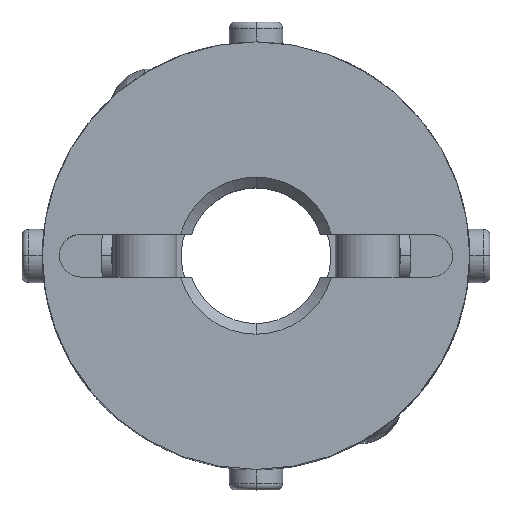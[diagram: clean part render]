
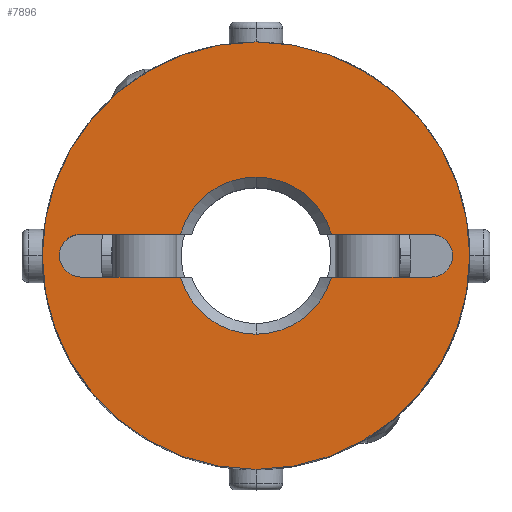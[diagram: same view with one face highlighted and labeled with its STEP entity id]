
A CAD part, top view. The second image highlights one B-rep face of the part: STEP entity #7896.
In plain terms, the highlighted planar face has unit normal (0, 0, 1).
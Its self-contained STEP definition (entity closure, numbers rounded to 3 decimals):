
#633=CARTESIAN_POINT('',(-8.907,-0.707,10.0));
#634=VERTEX_POINT('',#633);
#650=CARTESIAN_POINT('',(-8.2,1.,10.0));
#651=VERTEX_POINT('',#650);
#658=CARTESIAN_POINT('',(-8.2,0.,10.0));
#659=DIRECTION('',(0.0,0.0,1.0));
#660=DIRECTION('',(-0.707,0.707,0.0));
#661=AXIS2_PLACEMENT_3D('',#658,#659,#660);
#662=CIRCLE('',#661,1.);
#663=EDGE_CURVE('',#651,#634,#662,.T.);
#675=CARTESIAN_POINT('',(8.907,0.707,10.0));
#676=VERTEX_POINT('',#675);
#692=CARTESIAN_POINT('',(8.2,-1.,10.0));
#693=VERTEX_POINT('',#692);
#700=CARTESIAN_POINT('',(8.2,0.,10.0));
#701=DIRECTION('',(0.0,0.0,1.0));
#702=DIRECTION('',(0.707,-0.707,0.0));
#703=AXIS2_PLACEMENT_3D('',#700,#701,#702);
#704=CIRCLE('',#703,1.0);
#705=EDGE_CURVE('',#693,#676,#704,.T.);
#715=CARTESIAN_POINT('',(0.,-3.675,10.0));
#716=VERTEX_POINT('',#715);
#724=CARTESIAN_POINT('',(-3.536,-1.,10.0));
#725=VERTEX_POINT('',#724);
#739=CARTESIAN_POINT('',(0.,0.,10.0));
#740=DIRECTION('',(0.0,0.0,1.0));
#741=DIRECTION('',(0.0,-1.0,0.0));
#742=AXIS2_PLACEMENT_3D('',#739,#740,#741);
#743=CIRCLE('',#742,3.675);
#744=EDGE_CURVE('',#725,#716,#743,.T.);
#756=CARTESIAN_POINT('',(0.,3.675,10.0));
#757=VERTEX_POINT('',#756);
#773=CARTESIAN_POINT('',(3.536,1.,10.0));
#774=VERTEX_POINT('',#773);
#788=CARTESIAN_POINT('',(0.,0.,10.0));
#789=DIRECTION('',(0.0,0.0,1.0));
#790=DIRECTION('',(0.0,1.0,0.0));
#791=AXIS2_PLACEMENT_3D('',#788,#789,#790);
#792=CIRCLE('',#791,3.675);
#793=EDGE_CURVE('',#774,#757,#792,.T.);
#1385=CARTESIAN_POINT('',(0.,-10.0,10.0));
#1386=VERTEX_POINT('',#1385);
#1393=CARTESIAN_POINT('',(0.,10.0,10.0));
#1394=VERTEX_POINT('',#1393);
#1395=CARTESIAN_POINT('',(0.0,0.0,10.0));
#1396=DIRECTION('',(0.0,0.0,-1.0));
#1397=DIRECTION('',(0.0,1.0,0.0));
#1398=AXIS2_PLACEMENT_3D('',#1395,#1396,#1397);
#1399=CIRCLE('',#1398,10.0);
#1400=EDGE_CURVE('',#1386,#1394,#1399,.T.);
#7203=CARTESIAN_POINT('',(0.0,0.0,10.0));
#7204=DIRECTION('',(0.0,0.0,-1.0));
#7205=DIRECTION('',(0.0,1.0,0.0));
#7206=AXIS2_PLACEMENT_3D('',#7203,#7204,#7205);
#7207=CIRCLE('',#7206,10.0);
#7208=EDGE_CURVE('',#1394,#1386,#7207,.T.);
#7692=CARTESIAN_POINT('',(3.536,-1.,10.0));
#7693=VERTEX_POINT('',#7692);
#7707=CARTESIAN_POINT('',(8.2,-1.,10.0));
#7708=DIRECTION('',(-1.0,0.0,0.0));
#7709=VECTOR('',#7708,4.664);
#7710=LINE('',#7707,#7709);
#7711=EDGE_CURVE('',#693,#7693,#7710,.T.);
#7770=CARTESIAN_POINT('',(8.2,1.,10.0));
#7771=VERTEX_POINT('',#7770);
#7778=CARTESIAN_POINT('',(3.536,1.,10.0));
#7779=DIRECTION('',(1.0,0.0,0.0));
#7780=VECTOR('',#7779,4.664);
#7781=LINE('',#7778,#7780);
#7782=EDGE_CURVE('',#774,#7771,#7781,.T.);
#7799=CARTESIAN_POINT('',(-3.536,1.,10.0));
#7800=VERTEX_POINT('',#7799);
#7801=CARTESIAN_POINT('',(0.,0.,10.0));
#7802=DIRECTION('',(0.0,0.0,1.0));
#7803=DIRECTION('',(0.0,1.0,0.0));
#7804=AXIS2_PLACEMENT_3D('',#7801,#7802,#7803);
#7805=CIRCLE('',#7804,3.675);
#7806=EDGE_CURVE('',#757,#7800,#7805,.T.);
#7833=CARTESIAN_POINT('',(-8.2,1.,10.0));
#7834=DIRECTION('',(1.0,0.0,0.0));
#7835=VECTOR('',#7834,4.664);
#7836=LINE('',#7833,#7835);
#7837=EDGE_CURVE('',#651,#7800,#7836,.T.);
#7848=CARTESIAN_POINT('',(0.,0.909,10.0));
#7849=DIRECTION('',(0.0,0.0,1.0));
#7850=DIRECTION('',(0.0,1.0,0.0));
#7851=AXIS2_PLACEMENT_3D('',#7848,#7849,#7850);
#7852=PLANE('',#7851);
#7853=ORIENTED_EDGE('',*,*,#7208,.F.);
#7854=ORIENTED_EDGE('',*,*,#1400,.F.);
#7855=EDGE_LOOP('',(#7853,#7854));
#7856=FACE_OUTER_BOUND('',#7855,.T.);
#7857=ORIENTED_EDGE('',*,*,#793,.F.);
#7858=ORIENTED_EDGE('',*,*,#7782,.T.);
#7859=CARTESIAN_POINT('',(8.2,0.,10.0));
#7860=DIRECTION('',(0.0,0.0,1.0));
#7861=DIRECTION('',(0.707,-0.707,0.0));
#7862=AXIS2_PLACEMENT_3D('',#7859,#7860,#7861);
#7863=CIRCLE('',#7862,1.0);
#7864=EDGE_CURVE('',#676,#7771,#7863,.T.);
#7865=ORIENTED_EDGE('',*,*,#7864,.F.);
#7866=ORIENTED_EDGE('',*,*,#705,.F.);
#7867=ORIENTED_EDGE('',*,*,#7711,.T.);
#7868=CARTESIAN_POINT('',(0.,0.,10.0));
#7869=DIRECTION('',(0.0,0.0,1.0));
#7870=DIRECTION('',(0.0,-1.0,0.0));
#7871=AXIS2_PLACEMENT_3D('',#7868,#7869,#7870);
#7872=CIRCLE('',#7871,3.675);
#7873=EDGE_CURVE('',#716,#7693,#7872,.T.);
#7874=ORIENTED_EDGE('',*,*,#7873,.F.);
#7875=ORIENTED_EDGE('',*,*,#744,.F.);
#7876=CARTESIAN_POINT('',(-8.2,-1.,10.0));
#7877=VERTEX_POINT('',#7876);
#7878=CARTESIAN_POINT('',(-3.536,-1.,10.0));
#7879=DIRECTION('',(-1.0,0.0,0.0));
#7880=VECTOR('',#7879,4.664);
#7881=LINE('',#7878,#7880);
#7882=EDGE_CURVE('',#725,#7877,#7881,.T.);
#7883=ORIENTED_EDGE('',*,*,#7882,.T.);
#7884=CARTESIAN_POINT('',(-8.2,0.,10.0));
#7885=DIRECTION('',(0.0,0.0,1.0));
#7886=DIRECTION('',(-0.707,0.707,0.0));
#7887=AXIS2_PLACEMENT_3D('',#7884,#7885,#7886);
#7888=CIRCLE('',#7887,1.);
#7889=EDGE_CURVE('',#634,#7877,#7888,.T.);
#7890=ORIENTED_EDGE('',*,*,#7889,.F.);
#7891=ORIENTED_EDGE('',*,*,#663,.F.);
#7892=ORIENTED_EDGE('',*,*,#7837,.T.);
#7893=ORIENTED_EDGE('',*,*,#7806,.F.);
#7894=EDGE_LOOP('',(#7857,#7858,#7865,#7866,#7867,#7874,#7875,#7883,#7890,#7891,#7892,#7893));
#7895=FACE_BOUND('',#7894,.T.);
#7896=ADVANCED_FACE('',(#7856,#7895),#7852,.T.);
